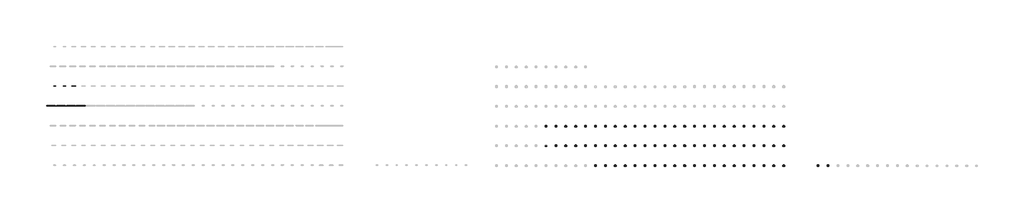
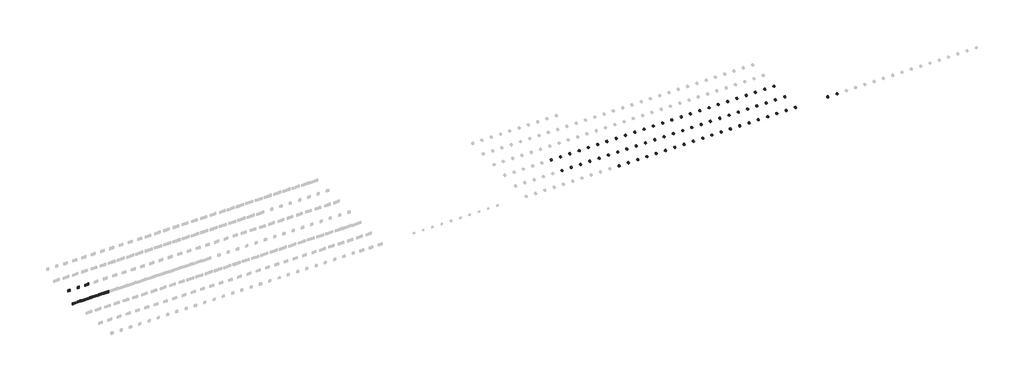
# One storey, part 2 of 18: 78 proxies, 72 cable carrier fittings.
"""IFC4 building model written with IfcOpenShell, lengths in millimetres."""

from ifc_helpers import new_model, si_unit, origin, place, context, project, spatial, transform, mapped, element, save
from components import electrical_fixtures_f4518cee, electrical_fixtures_237118b2, electrical_fixtures_96edac8a, electrical_fixtures_1861e07e, electrical_fixtures_887a49c7, electrical_fixtures_2bdeffb2, electrical_fixtures_55b0cb72, electrical_fixtures_6e0d8de4, cable_carrier_fitting_a64d4eba

model = new_model("IFC4")

# Units and contexts
model_context = context("Model", 3, world=origin())
ifc_project = project(units=[si_unit("LENGTHUNIT", "METRE", prefix="MILLI")], contexts=[model_context])

# Site, building, storey
site = spatial("IfcSite", under=ifc_project)
building = spatial("IfcBuilding", under=site)
storey = spatial("IfcBuildingStorey", under=building, Name="Этаж 01", Elevation=0.0)

# Proxies
placement = place(None, origin())
electrical_fixtures_shape = electrical_fixtures_f4518cee(model_context)
element("IfcBuildingElementProxy", 1, Name="IEK_Brite_Рамка : x5_РУ-5-Бр беж.-шамп.", ObjectType="IEK_Brite_Рамка : x5_РУ-5-Бр беж.-шамп.", at=placement, inside=storey, context=model_context, shape_type="MappedRepresentation", body=[
    mapped(electrical_fixtures_shape, transform((420.0, -15400.0, 0.0), x_axis=(1.0, 0.0, 0.0), y_axis=(0.0, 1.0, 0.0), z_axis=(0.0, 0.0, 1.0))),
])
element("IfcBuildingElementProxy", 2, Name="IEK_Brite_Рамка : x5_РУ-5-Бр бел.-бел.", ObjectType="IEK_Brite_Рамка : x5_РУ-5-Бр бел.-бел.", at=placement, inside=storey, context=model_context, shape_type="MappedRepresentation", body=[
    mapped(electrical_fixtures_shape, transform((820.0, -15400.0, 0.0), x_axis=(1.0, 0.0, 0.0), y_axis=(0.0, 1.0, 0.0), z_axis=(0.0, 0.0, 1.0))),
])
element("IfcBuildingElementProxy", 3, Name="IEK_Brite_Рамка : x5_РУ-5-Бр алюм.-алюм.", ObjectType="IEK_Brite_Рамка : x5_РУ-5-Бр алюм.-алюм.", at=placement, inside=storey, context=model_context, shape_type="MappedRepresentation", body=[
    mapped(electrical_fixtures_shape, transform((1220.0, -15400.0, 0.0), x_axis=(1.0, 0.0, 0.0), y_axis=(0.0, 1.0, 0.0), z_axis=(0.0, 0.0, 1.0))),
])
electrical_fixtures_2_shape = electrical_fixtures_237118b2(model_context)
element("IfcBuildingElementProxy", 4, Name="IEK_Brite_Рамка : x5_РУ-5-Бр бел. рифленый", ObjectType="IEK_Brite_Рамка : x5_РУ-5-Бр бел. рифленый", at=placement, inside=storey, context=model_context, shape_type="MappedRepresentation", body=[
    mapped(electrical_fixtures_2_shape, transform((1620.0, -15400.0, 0.0), x_axis=(1.0, 0.0, 0.0), y_axis=(0.0, 1.0, 0.0), z_axis=(0.0, 0.0, 1.0))),
])
electrical_fixtures_3_shape = electrical_fixtures_96edac8a(model_context)
element("IfcBuildingElementProxy", 5, Name="IEK_Brite_Рамка : x1_РУ-1-2-БрД стекло дым.", ObjectType="IEK_Brite_Рамка : x1_РУ-1-2-БрД стекло дым.", at=placement, inside=storey, context=model_context, shape_type="MappedRepresentation", body=[
    mapped(electrical_fixtures_3_shape, transform((420.0, -14600.0, 0.0), x_axis=(1.0, 0.0, 0.0), y_axis=(0.0, 1.0, 0.0), z_axis=(0.0, 0.0, 1.0))),
])
element("IfcBuildingElementProxy", 6, Name="IEK_Brite_Рамка : x1_РУ-1-2-БрТБ стекло бр.", ObjectType="IEK_Brite_Рамка : x1_РУ-1-2-БрТБ стекло бр.", at=placement, inside=storey, context=model_context, shape_type="MappedRepresentation", body=[
    mapped(electrical_fixtures_3_shape, transform((820.0, -14600.0, 0.0), x_axis=(1.0, 0.0, 0.0), y_axis=(0.0, 1.0, 0.0), z_axis=(0.0, 0.0, 1.0))),
])
electrical_fixtures_4_shape = electrical_fixtures_1861e07e(model_context)
element("IfcBuildingElementProxy", 7, Name="IEK_Brite_Рамка : x2_РУ-2-2-Бр стекло бел. матовый", ObjectType="IEK_Brite_Рамка : x2_РУ-2-2-Бр стекло бел. матовый", at=placement, inside=storey, context=model_context, shape_type="MappedRepresentation", body=[
    mapped(electrical_fixtures_4_shape, transform((1220.0, -14600.0, 0.0), x_axis=(1.0, 0.0, 0.0), y_axis=(0.0, 1.0, 0.0), z_axis=(0.0, 0.0, 1.0))),
])
electrical_fixtures_5_shape = electrical_fixtures_887a49c7(model_context)
element("IfcBuildingElementProxy", 8, Name="IEK_Brite_Механизм выключателя : ВП1_ВС10-1-3-БрА", ObjectType="IEK_Brite_Механизм выключателя : ВП1_ВС10-1-3-БрА", at=placement, inside=storey, context=model_context, shape_type="MappedRepresentation", body=[
    mapped(electrical_fixtures_5_shape, transform((22261.6818904, -17800.0, 0.0), x_axis=(1.0, 0.0, 0.0), y_axis=(0.0, 1.0, 0.0), z_axis=(0.0, 0.0, 1.0))),
])
element("IfcBuildingElementProxy", 9, Name="IEK_Brite_Механизм выключателя : ВП1_ВС10-1-3-БрБ", ObjectType="IEK_Brite_Механизм выключателя : ВП1_ВС10-1-3-БрБ", at=placement, inside=storey, context=model_context, shape_type="MappedRepresentation", body=[
    mapped(electrical_fixtures_5_shape, transform((22661.6818904, -17800.0, 0.0), x_axis=(1.0, 0.0, 0.0), y_axis=(0.0, 1.0, 0.0), z_axis=(0.0, 0.0, 1.0))),
])
element("IfcBuildingElementProxy", 10, Name="IEK_Brite_Механизм выключателя : ВП1_ВС10-1-3-БрГ", ObjectType="IEK_Brite_Механизм выключателя : ВП1_ВС10-1-3-БрГ", at=placement, inside=storey, context=model_context, shape_type="MappedRepresentation", body=[
    mapped(electrical_fixtures_5_shape, transform((23061.6818904, -17800.0, 0.0), x_axis=(1.0, 0.0, 0.0), y_axis=(0.0, 1.0, 0.0), z_axis=(0.0, 0.0, 1.0))),
])
element("IfcBuildingElementProxy", 11, Name="IEK_Brite_Механизм выключателя : ВП1_ВС10-1-3-БрЖ", ObjectType="IEK_Brite_Механизм выключателя : ВП1_ВС10-1-3-БрЖ", at=placement, inside=storey, context=model_context, shape_type="MappedRepresentation", body=[
    mapped(electrical_fixtures_5_shape, transform((23461.6818904, -17800.0, 0.0), x_axis=(1.0, 0.0, 0.0), y_axis=(0.0, 1.0, 0.0), z_axis=(0.0, 0.0, 1.0))),
])
element("IfcBuildingElementProxy", 12, Name="IEK_Brite_Механизм выключателя : ВП1_ВС10-1-3-БрКр", ObjectType="IEK_Brite_Механизм выключателя : ВП1_ВС10-1-3-БрКр", at=placement, inside=storey, context=model_context, shape_type="MappedRepresentation", body=[
    mapped(electrical_fixtures_5_shape, transform((23861.6818904, -17800.0, 0.0), x_axis=(1.0, 0.0, 0.0), y_axis=(0.0, 1.0, 0.0), z_axis=(0.0, 0.0, 1.0))),
])
element("IfcBuildingElementProxy", 13, Name="IEK_Brite_Механизм выключателя : ВП1_ВС10-1-3-БрМ", ObjectType="IEK_Brite_Механизм выключателя : ВП1_ВС10-1-3-БрМ", at=placement, inside=storey, context=model_context, shape_type="MappedRepresentation", body=[
    mapped(electrical_fixtures_5_shape, transform((24261.6818904, -17800.0, 0.0), x_axis=(1.0, 0.0, 0.0), y_axis=(0.0, 1.0, 0.0), z_axis=(0.0, 0.0, 1.0))),
])
element("IfcBuildingElementProxy", 14, Name="IEK_Brite_Механизм выключателя : ВП1_ВС10-1-3-БрС", ObjectType="IEK_Brite_Механизм выключателя : ВП1_ВС10-1-3-БрС", at=placement, inside=storey, context=model_context, shape_type="MappedRepresentation", body=[
    mapped(electrical_fixtures_5_shape, transform((24661.6818904, -17800.0, 0.0), x_axis=(1.0, 0.0, 0.0), y_axis=(0.0, 1.0, 0.0), z_axis=(0.0, 0.0, 1.0))),
])
element("IfcBuildingElementProxy", 15, Name="IEK_Brite_Механизм выключателя : ВП1_ВС10-1-3-БрТБ", ObjectType="IEK_Brite_Механизм выключателя : ВП1_ВС10-1-3-БрТБ", at=placement, inside=storey, context=model_context, shape_type="MappedRepresentation", body=[
    mapped(electrical_fixtures_5_shape, transform((25061.6818904, -17800.0, 0.0), x_axis=(1.0, 0.0, 0.0), y_axis=(0.0, 1.0, 0.0), z_axis=(0.0, 0.0, 1.0))),
])
element("IfcBuildingElementProxy", 16, Name="IEK_Brite_Механизм выключателя : ВП1_ВС10-1-3-БрЧ", ObjectType="IEK_Brite_Механизм выключателя : ВП1_ВС10-1-3-БрЧ", at=placement, inside=storey, context=model_context, shape_type="MappedRepresentation", body=[
    mapped(electrical_fixtures_5_shape, transform((25461.6818904, -17800.0, 0.0), x_axis=(1.0, 0.0, 0.0), y_axis=(0.0, 1.0, 0.0), z_axis=(0.0, 0.0, 1.0))),
])
element("IfcBuildingElementProxy", 17, Name="IEK_Brite_Механизм выключателя : ВП1_ВС10-1-3-БрШ", ObjectType="IEK_Brite_Механизм выключателя : ВП1_ВС10-1-3-БрШ", at=placement, inside=storey, context=model_context, shape_type="MappedRepresentation", body=[
    mapped(electrical_fixtures_5_shape, transform((25861.6818904, -17800.0, 0.0), x_axis=(1.0, 0.0, 0.0), y_axis=(0.0, 1.0, 0.0), z_axis=(0.0, 0.0, 1.0))),
])
element("IfcBuildingElementProxy", 18, Name="IEK_Brite_Механизм выключателя : ВПр1_ВС10-1-6-БрА", ObjectType="IEK_Brite_Механизм выключателя : ВПр1_ВС10-1-6-БрА", at=placement, inside=storey, context=model_context, shape_type="MappedRepresentation", body=[
    mapped(electrical_fixtures_5_shape, transform((26261.6818904, -17800.0, 0.0), x_axis=(1.0, 0.0, 0.0), y_axis=(0.0, 1.0, 0.0), z_axis=(0.0, 0.0, 1.0))),
])
element("IfcBuildingElementProxy", 19, Name="IEK_Brite_Механизм выключателя : ВПр1_ВС10-1-6-БрБ", ObjectType="IEK_Brite_Механизм выключателя : ВПр1_ВС10-1-6-БрБ", at=placement, inside=storey, context=model_context, shape_type="MappedRepresentation", body=[
    mapped(electrical_fixtures_5_shape, transform((26661.6818904, -17800.0, 0.0), x_axis=(1.0, 0.0, 0.0), y_axis=(0.0, 1.0, 0.0), z_axis=(0.0, 0.0, 1.0))),
])
element("IfcBuildingElementProxy", 20, Name="IEK_Brite_Механизм выключателя : ВПр1_ВС10-1-6-БрГ", ObjectType="IEK_Brite_Механизм выключателя : ВПр1_ВС10-1-6-БрГ", at=placement, inside=storey, context=model_context, shape_type="MappedRepresentation", body=[
    mapped(electrical_fixtures_5_shape, transform((27061.6818904, -17800.0, 0.0), x_axis=(1.0, 0.0, 0.0), y_axis=(0.0, 1.0, 0.0), z_axis=(0.0, 0.0, 1.0))),
])
element("IfcBuildingElementProxy", 21, Name="IEK_Brite_Механизм выключателя : ВПр1_ВС10-1-6-БрЖ", ObjectType="IEK_Brite_Механизм выключателя : ВПр1_ВС10-1-6-БрЖ", at=placement, inside=storey, context=model_context, shape_type="MappedRepresentation", body=[
    mapped(electrical_fixtures_5_shape, transform((27461.6818904, -17800.0, 0.0), x_axis=(1.0, 0.0, 0.0), y_axis=(0.0, 1.0, 0.0), z_axis=(0.0, 0.0, 1.0))),
])
element("IfcBuildingElementProxy", 22, Name="IEK_Brite_Механизм выключателя : ВПр1_ВС10-1-6-БрКр", ObjectType="IEK_Brite_Механизм выключателя : ВПр1_ВС10-1-6-БрКр", at=placement, inside=storey, context=model_context, shape_type="MappedRepresentation", body=[
    mapped(electrical_fixtures_5_shape, transform((27861.6818904, -17800.0, 0.0), x_axis=(1.0, 0.0, 0.0), y_axis=(0.0, 1.0, 0.0), z_axis=(0.0, 0.0, 1.0))),
])
element("IfcBuildingElementProxy", 23, Name="IEK_Brite_Механизм выключателя : ВПр1_ВС10-1-6-БрМ", ObjectType="IEK_Brite_Механизм выключателя : ВПр1_ВС10-1-6-БрМ", at=placement, inside=storey, context=model_context, shape_type="MappedRepresentation", body=[
    mapped(electrical_fixtures_5_shape, transform((28261.6818904, -17800.0, 0.0), x_axis=(1.0, 0.0, 0.0), y_axis=(0.0, 1.0, 0.0), z_axis=(0.0, 0.0, 1.0))),
])
element("IfcBuildingElementProxy", 24, Name="IEK_Brite_Механизм выключателя : ВПр1_ВС10-1-6-БрС", ObjectType="IEK_Brite_Механизм выключателя : ВПр1_ВС10-1-6-БрС", at=placement, inside=storey, context=model_context, shape_type="MappedRepresentation", body=[
    mapped(electrical_fixtures_5_shape, transform((28661.6818904, -17800.0, 0.0), x_axis=(1.0, 0.0, 0.0), y_axis=(0.0, 1.0, 0.0), z_axis=(0.0, 0.0, 1.0))),
])
element("IfcBuildingElementProxy", 25, Name="IEK_Brite_Механизм выключателя : ВПр1_ВС10-1-6-БрТБ", ObjectType="IEK_Brite_Механизм выключателя : ВПр1_ВС10-1-6-БрТБ", at=placement, inside=storey, context=model_context, shape_type="MappedRepresentation", body=[
    mapped(electrical_fixtures_5_shape, transform((29061.6818904, -17800.0, 0.0), x_axis=(1.0, 0.0, 0.0), y_axis=(0.0, 1.0, 0.0), z_axis=(0.0, 0.0, 1.0))),
])
element("IfcBuildingElementProxy", 26, Name="IEK_Brite_Механизм выключателя : ВПр1_ВС10-1-6-БрЧ", ObjectType="IEK_Brite_Механизм выключателя : ВПр1_ВС10-1-6-БрЧ", at=placement, inside=storey, context=model_context, shape_type="MappedRepresentation", body=[
    mapped(electrical_fixtures_5_shape, transform((29461.6818904, -17800.0, 0.0), x_axis=(1.0, 0.0, 0.0), y_axis=(0.0, 1.0, 0.0), z_axis=(0.0, 0.0, 1.0))),
])
element("IfcBuildingElementProxy", 27, Name="IEK_Brite_Механизм выключателя : ВПр1_ВС10-1-6-БрШ", ObjectType="IEK_Brite_Механизм выключателя : ВПр1_ВС10-1-6-БрШ", at=placement, inside=storey, context=model_context, shape_type="MappedRepresentation", body=[
    mapped(electrical_fixtures_5_shape, transform((29861.6818904, -17800.0, 0.0), x_axis=(1.0, 0.0, 0.0), y_axis=(0.0, 1.0, 0.0), z_axis=(0.0, 0.0, 1.0))),
])
electrical_fixtures_6_shape = electrical_fixtures_2bdeffb2(model_context)
element("IfcBuildingElementProxy", 28, Name="IEK_Brite_Механизм выключателя : ВПр1 И_ВС10-1-7-БрС", ObjectType="IEK_Brite_Механизм выключателя : ВПр1 И_ВС10-1-7-БрС", at=placement, inside=storey, context=model_context, shape_type="MappedRepresentation", body=[
    mapped(electrical_fixtures_6_shape, transform((20661.6818904, -17000.0, 0.0), x_axis=(1.0, 0.0, 0.0), y_axis=(0.0, 1.0, 0.0), z_axis=(0.0, 0.0, 1.0))),
])
element("IfcBuildingElementProxy", 29, Name="IEK_Brite_Механизм выключателя : ВПр1 И_ВС10-1-7-БрТБ", ObjectType="IEK_Brite_Механизм выключателя : ВПр1 И_ВС10-1-7-БрТБ", at=placement, inside=storey, context=model_context, shape_type="MappedRepresentation", body=[
    mapped(electrical_fixtures_6_shape, transform((21061.6818904, -17000.0, 0.0), x_axis=(1.0, 0.0, 0.0), y_axis=(0.0, 1.0, 0.0), z_axis=(0.0, 0.0, 1.0))),
])
element("IfcBuildingElementProxy", 30, Name="IEK_Brite_Механизм выключателя : ВПр1 И_ВС10-1-7-БрЧ", ObjectType="IEK_Brite_Механизм выключателя : ВПр1 И_ВС10-1-7-БрЧ", at=placement, inside=storey, context=model_context, shape_type="MappedRepresentation", body=[
    mapped(electrical_fixtures_6_shape, transform((21461.6818904, -17000.0, 0.0), x_axis=(1.0, 0.0, 0.0), y_axis=(0.0, 1.0, 0.0), z_axis=(0.0, 0.0, 1.0))),
])
element("IfcBuildingElementProxy", 31, Name="IEK_Brite_Механизм выключателя : ВПр1 И_ВС10-1-7-БрШ", ObjectType="IEK_Brite_Механизм выключателя : ВПр1 И_ВС10-1-7-БрШ", at=placement, inside=storey, context=model_context, shape_type="MappedRepresentation", body=[
    mapped(electrical_fixtures_6_shape, transform((21861.6818904, -17000.0, 0.0), x_axis=(1.0, 0.0, 0.0), y_axis=(0.0, 1.0, 0.0), z_axis=(0.0, 0.0, 1.0))),
])
element("IfcBuildingElementProxy", 32, Name="IEK_Brite_Механизм выключателя : В1 И_ВС10-1-1-БрА", ObjectType="IEK_Brite_Механизм выключателя : В1 И_ВС10-1-1-БрА", at=placement, inside=storey, context=model_context, shape_type="MappedRepresentation", body=[
    mapped(electrical_fixtures_6_shape, transform((22261.6818904, -17000.0, 0.0), x_axis=(1.0, 0.0, 0.0), y_axis=(0.0, 1.0, 0.0), z_axis=(0.0, 0.0, 1.0))),
])
element("IfcBuildingElementProxy", 33, Name="IEK_Brite_Механизм выключателя : В1 И_ВС10-1-1-БрБ", ObjectType="IEK_Brite_Механизм выключателя : В1 И_ВС10-1-1-БрБ", at=placement, inside=storey, context=model_context, shape_type="MappedRepresentation", body=[
    mapped(electrical_fixtures_6_shape, transform((22661.6818904, -17000.0, 0.0), x_axis=(1.0, 0.0, 0.0), y_axis=(0.0, 1.0, 0.0), z_axis=(0.0, 0.0, 1.0))),
])
element("IfcBuildingElementProxy", 34, Name="IEK_Brite_Механизм выключателя : В1 И_ВС10-1-1-БрГ", ObjectType="IEK_Brite_Механизм выключателя : В1 И_ВС10-1-1-БрГ", at=placement, inside=storey, context=model_context, shape_type="MappedRepresentation", body=[
    mapped(electrical_fixtures_6_shape, transform((23061.6818904, -17000.0, 0.0), x_axis=(1.0, 0.0, 0.0), y_axis=(0.0, 1.0, 0.0), z_axis=(0.0, 0.0, 1.0))),
])
element("IfcBuildingElementProxy", 35, Name="IEK_Brite_Механизм выключателя : В1 И_ВС10-1-1-БрЖ", ObjectType="IEK_Brite_Механизм выключателя : В1 И_ВС10-1-1-БрЖ", at=placement, inside=storey, context=model_context, shape_type="MappedRepresentation", body=[
    mapped(electrical_fixtures_6_shape, transform((23461.6818904, -17000.0, 0.0), x_axis=(1.0, 0.0, 0.0), y_axis=(0.0, 1.0, 0.0), z_axis=(0.0, 0.0, 1.0))),
])
element("IfcBuildingElementProxy", 36, Name="IEK_Brite_Механизм выключателя : В1 И_ВС10-1-1-БрКр", ObjectType="IEK_Brite_Механизм выключателя : В1 И_ВС10-1-1-БрКр", at=placement, inside=storey, context=model_context, shape_type="MappedRepresentation", body=[
    mapped(electrical_fixtures_6_shape, transform((23861.6818904, -17000.0, 0.0), x_axis=(1.0, 0.0, 0.0), y_axis=(0.0, 1.0, 0.0), z_axis=(0.0, 0.0, 1.0))),
])
element("IfcBuildingElementProxy", 37, Name="IEK_Brite_Механизм выключателя : В1 И_ВС10-1-1-БрМ", ObjectType="IEK_Brite_Механизм выключателя : В1 И_ВС10-1-1-БрМ", at=placement, inside=storey, context=model_context, shape_type="MappedRepresentation", body=[
    mapped(electrical_fixtures_6_shape, transform((24261.6818904, -17000.0, 0.0), x_axis=(1.0, 0.0, 0.0), y_axis=(0.0, 1.0, 0.0), z_axis=(0.0, 0.0, 1.0))),
])
element("IfcBuildingElementProxy", 38, Name="IEK_Brite_Механизм выключателя : В1 И_ВС10-1-1-БрС", ObjectType="IEK_Brite_Механизм выключателя : В1 И_ВС10-1-1-БрС", at=placement, inside=storey, context=model_context, shape_type="MappedRepresentation", body=[
    mapped(electrical_fixtures_6_shape, transform((24661.6818904, -17000.0, 0.0), x_axis=(1.0, 0.0, 0.0), y_axis=(0.0, 1.0, 0.0), z_axis=(0.0, 0.0, 1.0))),
])
element("IfcBuildingElementProxy", 39, Name="IEK_Brite_Механизм выключателя : В1 И_ВС10-1-1-БрТБ", ObjectType="IEK_Brite_Механизм выключателя : В1 И_ВС10-1-1-БрТБ", at=placement, inside=storey, context=model_context, shape_type="MappedRepresentation", body=[
    mapped(electrical_fixtures_6_shape, transform((25061.6818904, -17000.0, 0.0), x_axis=(1.0, 0.0, 0.0), y_axis=(0.0, 1.0, 0.0), z_axis=(0.0, 0.0, 1.0))),
])
element("IfcBuildingElementProxy", 40, Name="IEK_Brite_Механизм выключателя : В1 И_ВС10-1-1-БрЧ", ObjectType="IEK_Brite_Механизм выключателя : В1 И_ВС10-1-1-БрЧ", at=placement, inside=storey, context=model_context, shape_type="MappedRepresentation", body=[
    mapped(electrical_fixtures_6_shape, transform((25461.6818904, -17000.0, 0.0), x_axis=(1.0, 0.0, 0.0), y_axis=(0.0, 1.0, 0.0), z_axis=(0.0, 0.0, 1.0))),
])
element("IfcBuildingElementProxy", 41, Name="IEK_Brite_Механизм выключателя : В1 И_ВС10-1-1-БрШ", ObjectType="IEK_Brite_Механизм выключателя : В1 И_ВС10-1-1-БрШ", at=placement, inside=storey, context=model_context, shape_type="MappedRepresentation", body=[
    mapped(electrical_fixtures_6_shape, transform((25861.6818904, -17000.0, 0.0), x_axis=(1.0, 0.0, 0.0), y_axis=(0.0, 1.0, 0.0), z_axis=(0.0, 0.0, 1.0))),
])
element("IfcBuildingElementProxy", 42, Name="IEK_Brite_Механизм выключателя : В1 СВ_ВС10-1-4-БрА", ObjectType="IEK_Brite_Механизм выключателя : В1 СВ_ВС10-1-4-БрА", at=placement, inside=storey, context=model_context, shape_type="MappedRepresentation", body=[
    mapped(electrical_fixtures_5_shape, transform((26261.6818904, -17000.0, 0.0), x_axis=(1.0, 0.0, 0.0), y_axis=(0.0, 1.0, 0.0), z_axis=(0.0, 0.0, 1.0))),
])
element("IfcBuildingElementProxy", 43, Name="IEK_Brite_Механизм выключателя : В1 СВ_ВС10-1-4-БрБ", ObjectType="IEK_Brite_Механизм выключателя : В1 СВ_ВС10-1-4-БрБ", at=placement, inside=storey, context=model_context, shape_type="MappedRepresentation", body=[
    mapped(electrical_fixtures_5_shape, transform((26661.6818904, -17000.0, 0.0), x_axis=(1.0, 0.0, 0.0), y_axis=(0.0, 1.0, 0.0), z_axis=(0.0, 0.0, 1.0))),
])
element("IfcBuildingElementProxy", 44, Name="IEK_Brite_Механизм выключателя : В1 СВ_ВС10-1-4-БрГ", ObjectType="IEK_Brite_Механизм выключателя : В1 СВ_ВС10-1-4-БрГ", at=placement, inside=storey, context=model_context, shape_type="MappedRepresentation", body=[
    mapped(electrical_fixtures_5_shape, transform((27061.6818904, -17000.0, 0.0), x_axis=(1.0, 0.0, 0.0), y_axis=(0.0, 1.0, 0.0), z_axis=(0.0, 0.0, 1.0))),
])
element("IfcBuildingElementProxy", 45, Name="IEK_Brite_Механизм выключателя : В1 СВ_ВС10-1-4-БрЖ", ObjectType="IEK_Brite_Механизм выключателя : В1 СВ_ВС10-1-4-БрЖ", at=placement, inside=storey, context=model_context, shape_type="MappedRepresentation", body=[
    mapped(electrical_fixtures_5_shape, transform((27461.6818904, -17000.0, 0.0), x_axis=(1.0, 0.0, 0.0), y_axis=(0.0, 1.0, 0.0), z_axis=(0.0, 0.0, 1.0))),
])
element("IfcBuildingElementProxy", 46, Name="IEK_Brite_Механизм выключателя : В1 СВ_ВС10-1-4-БрКр", ObjectType="IEK_Brite_Механизм выключателя : В1 СВ_ВС10-1-4-БрКр", at=placement, inside=storey, context=model_context, shape_type="MappedRepresentation", body=[
    mapped(electrical_fixtures_5_shape, transform((27861.6818904, -17000.0, 0.0), x_axis=(1.0, 0.0, 0.0), y_axis=(0.0, 1.0, 0.0), z_axis=(0.0, 0.0, 1.0))),
])
element("IfcBuildingElementProxy", 47, Name="IEK_Brite_Механизм выключателя : В1 СВ_ВС10-1-4-БрМ", ObjectType="IEK_Brite_Механизм выключателя : В1 СВ_ВС10-1-4-БрМ", at=placement, inside=storey, context=model_context, shape_type="MappedRepresentation", body=[
    mapped(electrical_fixtures_5_shape, transform((28261.6818904, -17000.0, 0.0), x_axis=(1.0, 0.0, 0.0), y_axis=(0.0, 1.0, 0.0), z_axis=(0.0, 0.0, 1.0))),
])
element("IfcBuildingElementProxy", 48, Name="IEK_Brite_Механизм выключателя : В1 СВ_ВС10-1-4-БрС", ObjectType="IEK_Brite_Механизм выключателя : В1 СВ_ВС10-1-4-БрС", at=placement, inside=storey, context=model_context, shape_type="MappedRepresentation", body=[
    mapped(electrical_fixtures_5_shape, transform((28661.6818904, -17000.0, 0.0), x_axis=(1.0, 0.0, 0.0), y_axis=(0.0, 1.0, 0.0), z_axis=(0.0, 0.0, 1.0))),
])
element("IfcBuildingElementProxy", 49, Name="IEK_Brite_Механизм выключателя : В1 СВ_ВС10-1-4-БрТБ", ObjectType="IEK_Brite_Механизм выключателя : В1 СВ_ВС10-1-4-БрТБ", at=placement, inside=storey, context=model_context, shape_type="MappedRepresentation", body=[
    mapped(electrical_fixtures_5_shape, transform((29061.6818904, -17000.0, 0.0), x_axis=(1.0, 0.0, 0.0), y_axis=(0.0, 1.0, 0.0), z_axis=(0.0, 0.0, 1.0))),
])
element("IfcBuildingElementProxy", 50, Name="IEK_Brite_Механизм выключателя : В1 СВ_ВС10-1-4-БрЧ", ObjectType="IEK_Brite_Механизм выключателя : В1 СВ_ВС10-1-4-БрЧ", at=placement, inside=storey, context=model_context, shape_type="MappedRepresentation", body=[
    mapped(electrical_fixtures_5_shape, transform((29461.6818904, -17000.0, 0.0), x_axis=(1.0, 0.0, 0.0), y_axis=(0.0, 1.0, 0.0), z_axis=(0.0, 0.0, 1.0))),
])
element("IfcBuildingElementProxy", 51, Name="IEK_Brite_Механизм выключателя : В1 СВ_ВС10-1-4-БрШ", ObjectType="IEK_Brite_Механизм выключателя : В1 СВ_ВС10-1-4-БрШ", at=placement, inside=storey, context=model_context, shape_type="MappedRepresentation", body=[
    mapped(electrical_fixtures_5_shape, transform((29861.6818904, -17000.0, 0.0), x_axis=(1.0, 0.0, 0.0), y_axis=(0.0, 1.0, 0.0), z_axis=(0.0, 0.0, 1.0))),
])
electrical_fixtures_7_shape = electrical_fixtures_55b0cb72(model_context)
element("IfcBuildingElementProxy", 52, Name="IEK_Brite_Механизм выключателя : В2_ВС10-2-0-БрМ", ObjectType="IEK_Brite_Механизм выключателя : В2_ВС10-2-0-БрМ", at=placement, inside=storey, context=model_context, shape_type="MappedRepresentation", body=[
    mapped(electrical_fixtures_7_shape, transform((20261.6818904, -16200.0, 0.0), x_axis=(1.0, 0.0, 0.0), y_axis=(0.0, 1.0, 0.0), z_axis=(0.0, 0.0, 1.0))),
])
element("IfcBuildingElementProxy", 53, Name="IEK_Brite_Механизм выключателя : В2_ВС10-2-0-БрС", ObjectType="IEK_Brite_Механизм выключателя : В2_ВС10-2-0-БрС", at=placement, inside=storey, context=model_context, shape_type="MappedRepresentation", body=[
    mapped(electrical_fixtures_7_shape, transform((20661.6818904, -16200.0, 0.0), x_axis=(1.0, 0.0, 0.0), y_axis=(0.0, 1.0, 0.0), z_axis=(0.0, 0.0, 1.0))),
])
element("IfcBuildingElementProxy", 54, Name="IEK_Brite_Механизм выключателя : В2_ВС10-2-0-БрТБ", ObjectType="IEK_Brite_Механизм выключателя : В2_ВС10-2-0-БрТБ", at=placement, inside=storey, context=model_context, shape_type="MappedRepresentation", body=[
    mapped(electrical_fixtures_7_shape, transform((21061.6818904, -16200.0, 0.0), x_axis=(1.0, 0.0, 0.0), y_axis=(0.0, 1.0, 0.0), z_axis=(0.0, 0.0, 1.0))),
])
element("IfcBuildingElementProxy", 55, Name="IEK_Brite_Механизм выключателя : В2_ВС10-2-0-БрЧ", ObjectType="IEK_Brite_Механизм выключателя : В2_ВС10-2-0-БрЧ", at=placement, inside=storey, context=model_context, shape_type="MappedRepresentation", body=[
    mapped(electrical_fixtures_7_shape, transform((21461.6818904, -16200.0, 0.0), x_axis=(1.0, 0.0, 0.0), y_axis=(0.0, 1.0, 0.0), z_axis=(0.0, 0.0, 1.0))),
])
element("IfcBuildingElementProxy", 56, Name="IEK_Brite_Механизм выключателя : В2_ВС10-2-0-БрШ", ObjectType="IEK_Brite_Механизм выключателя : В2_ВС10-2-0-БрШ", at=placement, inside=storey, context=model_context, shape_type="MappedRepresentation", body=[
    mapped(electrical_fixtures_7_shape, transform((21861.6818904, -16200.0, 0.0), x_axis=(1.0, 0.0, 0.0), y_axis=(0.0, 1.0, 0.0), z_axis=(0.0, 0.0, 1.0))),
])
element("IfcBuildingElementProxy", 57, Name="IEK_Brite_Механизм выключателя : ВП2_ВС10-2-3-БрА", ObjectType="IEK_Brite_Механизм выключателя : ВП2_ВС10-2-3-БрА", at=placement, inside=storey, context=model_context, shape_type="MappedRepresentation", body=[
    mapped(electrical_fixtures_7_shape, transform((22261.6818904, -16200.0, 0.0), x_axis=(1.0, 0.0, 0.0), y_axis=(0.0, 1.0, 0.0), z_axis=(0.0, 0.0, 1.0))),
])
element("IfcBuildingElementProxy", 58, Name="IEK_Brite_Механизм выключателя : ВП2_ВС10-2-3-БрБ", ObjectType="IEK_Brite_Механизм выключателя : ВП2_ВС10-2-3-БрБ", at=placement, inside=storey, context=model_context, shape_type="MappedRepresentation", body=[
    mapped(electrical_fixtures_7_shape, transform((22661.6818904, -16200.0, 0.0), x_axis=(1.0, 0.0, 0.0), y_axis=(0.0, 1.0, 0.0), z_axis=(0.0, 0.0, 1.0))),
])
element("IfcBuildingElementProxy", 59, Name="IEK_Brite_Механизм выключателя : ВП2_ВС10-2-3-БрГ", ObjectType="IEK_Brite_Механизм выключателя : ВП2_ВС10-2-3-БрГ", at=placement, inside=storey, context=model_context, shape_type="MappedRepresentation", body=[
    mapped(electrical_fixtures_7_shape, transform((23061.6818904, -16200.0, 0.0), x_axis=(1.0, 0.0, 0.0), y_axis=(0.0, 1.0, 0.0), z_axis=(0.0, 0.0, 1.0))),
])
element("IfcBuildingElementProxy", 60, Name="IEK_Brite_Механизм выключателя : ВП2_ВС10-2-3-БрЖ", ObjectType="IEK_Brite_Механизм выключателя : ВП2_ВС10-2-3-БрЖ", at=placement, inside=storey, context=model_context, shape_type="MappedRepresentation", body=[
    mapped(electrical_fixtures_7_shape, transform((23461.6818904, -16200.0, 0.0), x_axis=(1.0, 0.0, 0.0), y_axis=(0.0, 1.0, 0.0), z_axis=(0.0, 0.0, 1.0))),
])
element("IfcBuildingElementProxy", 61, Name="IEK_Brite_Механизм выключателя : ВП2_ВС10-2-3-БрКр", ObjectType="IEK_Brite_Механизм выключателя : ВП2_ВС10-2-3-БрКр", at=placement, inside=storey, context=model_context, shape_type="MappedRepresentation", body=[
    mapped(electrical_fixtures_7_shape, transform((23861.6818904, -16200.0, 0.0), x_axis=(1.0, 0.0, 0.0), y_axis=(0.0, 1.0, 0.0), z_axis=(0.0, 0.0, 1.0))),
])
element("IfcBuildingElementProxy", 62, Name="IEK_Brite_Механизм выключателя : ВП2_ВС10-2-3-БрМ", ObjectType="IEK_Brite_Механизм выключателя : ВП2_ВС10-2-3-БрМ", at=placement, inside=storey, context=model_context, shape_type="MappedRepresentation", body=[
    mapped(electrical_fixtures_7_shape, transform((24261.6818904, -16200.0, 0.0), x_axis=(1.0, 0.0, 0.0), y_axis=(0.0, 1.0, 0.0), z_axis=(0.0, 0.0, 1.0))),
])
element("IfcBuildingElementProxy", 63, Name="IEK_Brite_Механизм выключателя : ВП2_ВС10-2-3-БрС", ObjectType="IEK_Brite_Механизм выключателя : ВП2_ВС10-2-3-БрС", at=placement, inside=storey, context=model_context, shape_type="MappedRepresentation", body=[
    mapped(electrical_fixtures_7_shape, transform((24661.6818904, -16200.0, 0.0), x_axis=(1.0, 0.0, 0.0), y_axis=(0.0, 1.0, 0.0), z_axis=(0.0, 0.0, 1.0))),
])
element("IfcBuildingElementProxy", 64, Name="IEK_Brite_Механизм выключателя : ВП2_ВС10-2-3-БрТБ", ObjectType="IEK_Brite_Механизм выключателя : ВП2_ВС10-2-3-БрТБ", at=placement, inside=storey, context=model_context, shape_type="MappedRepresentation", body=[
    mapped(electrical_fixtures_7_shape, transform((25061.6818904, -16200.0, 0.0), x_axis=(1.0, 0.0, 0.0), y_axis=(0.0, 1.0, 0.0), z_axis=(0.0, 0.0, 1.0))),
])
element("IfcBuildingElementProxy", 65, Name="IEK_Brite_Механизм выключателя : ВП2_ВС10-2-3-БрЧ", ObjectType="IEK_Brite_Механизм выключателя : ВП2_ВС10-2-3-БрЧ", at=placement, inside=storey, context=model_context, shape_type="MappedRepresentation", body=[
    mapped(electrical_fixtures_7_shape, transform((25461.6818904, -16200.0, 0.0), x_axis=(1.0, 0.0, 0.0), y_axis=(0.0, 1.0, 0.0), z_axis=(0.0, 0.0, 1.0))),
])
element("IfcBuildingElementProxy", 66, Name="IEK_Brite_Механизм выключателя : ВП2_ВС10-2-3-БрШ", ObjectType="IEK_Brite_Механизм выключателя : ВП2_ВС10-2-3-БрШ", at=placement, inside=storey, context=model_context, shape_type="MappedRepresentation", body=[
    mapped(electrical_fixtures_7_shape, transform((25861.6818904, -16200.0, 0.0), x_axis=(1.0, 0.0, 0.0), y_axis=(0.0, 1.0, 0.0), z_axis=(0.0, 0.0, 1.0))),
])
element("IfcBuildingElementProxy", 67, Name="IEK_Brite_Механизм выключателя : ВПр2_ВС10-2-6-БрА", ObjectType="IEK_Brite_Механизм выключателя : ВПр2_ВС10-2-6-БрА", at=placement, inside=storey, context=model_context, shape_type="MappedRepresentation", body=[
    mapped(electrical_fixtures_7_shape, transform((26261.6818904, -16200.0, 0.0), x_axis=(1.0, 0.0, 0.0), y_axis=(0.0, 1.0, 0.0), z_axis=(0.0, 0.0, 1.0))),
])
element("IfcBuildingElementProxy", 68, Name="IEK_Brite_Механизм выключателя : ВПр2_ВС10-2-6-БрБ", ObjectType="IEK_Brite_Механизм выключателя : ВПр2_ВС10-2-6-БрБ", at=placement, inside=storey, context=model_context, shape_type="MappedRepresentation", body=[
    mapped(electrical_fixtures_7_shape, transform((26661.6818904, -16200.0, 0.0), x_axis=(1.0, 0.0, 0.0), y_axis=(0.0, 1.0, 0.0), z_axis=(0.0, 0.0, 1.0))),
])
element("IfcBuildingElementProxy", 69, Name="IEK_Brite_Механизм выключателя : ВПр2_ВС10-2-6-БрГ", ObjectType="IEK_Brite_Механизм выключателя : ВПр2_ВС10-2-6-БрГ", at=placement, inside=storey, context=model_context, shape_type="MappedRepresentation", body=[
    mapped(electrical_fixtures_7_shape, transform((27061.6818904, -16200.0, 0.0), x_axis=(1.0, 0.0, 0.0), y_axis=(0.0, 1.0, 0.0), z_axis=(0.0, 0.0, 1.0))),
])
element("IfcBuildingElementProxy", 70, Name="IEK_Brite_Механизм выключателя : ВПр2_ВС10-2-6-БрЖ", ObjectType="IEK_Brite_Механизм выключателя : ВПр2_ВС10-2-6-БрЖ", at=placement, inside=storey, context=model_context, shape_type="MappedRepresentation", body=[
    mapped(electrical_fixtures_7_shape, transform((27461.6818904, -16200.0, 0.0), x_axis=(1.0, 0.0, 0.0), y_axis=(0.0, 1.0, 0.0), z_axis=(0.0, 0.0, 1.0))),
])
element("IfcBuildingElementProxy", 71, Name="IEK_Brite_Механизм выключателя : ВПр2_ВС10-2-6-БрКр", ObjectType="IEK_Brite_Механизм выключателя : ВПр2_ВС10-2-6-БрКр", at=placement, inside=storey, context=model_context, shape_type="MappedRepresentation", body=[
    mapped(electrical_fixtures_7_shape, transform((27861.6818904, -16200.0, 0.0), x_axis=(1.0, 0.0, 0.0), y_axis=(0.0, 1.0, 0.0), z_axis=(0.0, 0.0, 1.0))),
])
element("IfcBuildingElementProxy", 72, Name="IEK_Brite_Механизм выключателя : ВПр2_ВС10-2-6-БрМ", ObjectType="IEK_Brite_Механизм выключателя : ВПр2_ВС10-2-6-БрМ", at=placement, inside=storey, context=model_context, shape_type="MappedRepresentation", body=[
    mapped(electrical_fixtures_7_shape, transform((28261.6818904, -16200.0, 0.0), x_axis=(1.0, 0.0, 0.0), y_axis=(0.0, 1.0, 0.0), z_axis=(0.0, 0.0, 1.0))),
])
element("IfcBuildingElementProxy", 73, Name="IEK_Brite_Механизм выключателя : ВПр2_ВС10-2-6-БрС", ObjectType="IEK_Brite_Механизм выключателя : ВПр2_ВС10-2-6-БрС", at=placement, inside=storey, context=model_context, shape_type="MappedRepresentation", body=[
    mapped(electrical_fixtures_7_shape, transform((28661.6818904, -16200.0, 0.0), x_axis=(1.0, 0.0, 0.0), y_axis=(0.0, 1.0, 0.0), z_axis=(0.0, 0.0, 1.0))),
])
element("IfcBuildingElementProxy", 74, Name="IEK_Brite_Механизм выключателя : ВПр2_ВС10-2-6-БрТБ", ObjectType="IEK_Brite_Механизм выключателя : ВПр2_ВС10-2-6-БрТБ", at=placement, inside=storey, context=model_context, shape_type="MappedRepresentation", body=[
    mapped(electrical_fixtures_7_shape, transform((29061.6818904, -16200.0, 0.0), x_axis=(1.0, 0.0, 0.0), y_axis=(0.0, 1.0, 0.0), z_axis=(0.0, 0.0, 1.0))),
])
element("IfcBuildingElementProxy", 75, Name="IEK_Brite_Механизм выключателя : ВПр2_ВС10-2-6-БрЧ", ObjectType="IEK_Brite_Механизм выключателя : ВПр2_ВС10-2-6-БрЧ", at=placement, inside=storey, context=model_context, shape_type="MappedRepresentation", body=[
    mapped(electrical_fixtures_7_shape, transform((29461.6818904, -16200.0, 0.0), x_axis=(1.0, 0.0, 0.0), y_axis=(0.0, 1.0, 0.0), z_axis=(0.0, 0.0, 1.0))),
])
element("IfcBuildingElementProxy", 76, Name="IEK_Brite_Механизм выключателя : ВПр2_ВС10-2-6-БрШ", ObjectType="IEK_Brite_Механизм выключателя : ВПр2_ВС10-2-6-БрШ", at=placement, inside=storey, context=model_context, shape_type="MappedRepresentation", body=[
    mapped(electrical_fixtures_7_shape, transform((29861.6818904, -16200.0, 0.0), x_axis=(1.0, 0.0, 0.0), y_axis=(0.0, 1.0, 0.0), z_axis=(0.0, 0.0, 1.0))),
])
electrical_fixtures_8_shape = electrical_fixtures_6e0d8de4(model_context)
element("IfcBuildingElementProxy", 77, Name="IEK_Brite_Механизм подсветки, вывод кабеля : ВК_МВ10-БрА", ObjectType="IEK_Brite_Механизм подсветки, вывод кабеля : ВК_МВ10-БрА", at=placement, inside=storey, context=model_context, shape_type="MappedRepresentation", body=[
    mapped(electrical_fixtures_8_shape, transform((31251.7869327, -17805.0, 0.0), x_axis=(1.0, 0.0, 0.0), y_axis=(0.0, 1.0, 0.0), z_axis=(0.0, 0.0, 1.0))),
])
element("IfcBuildingElementProxy", 78, Name="IEK_Brite_Механизм подсветки, вывод кабеля : ВК_МВ10-БрБ", ObjectType="IEK_Brite_Механизм подсветки, вывод кабеля : ВК_МВ10-БрБ", at=placement, inside=storey, context=model_context, shape_type="MappedRepresentation", body=[
    mapped(electrical_fixtures_8_shape, transform((31651.7869327, -17805.0, 0.0), x_axis=(1.0, 0.0, 0.0), y_axis=(0.0, 1.0, 0.0), z_axis=(0.0, 0.0, 1.0))),
])

# Cable carrier fittings
cable_carrier_fitting_shape = cable_carrier_fitting_a64d4eba(model_context)
element("IfcCableCarrierFitting", 79, ObjectType="IEK_Коробка монтажная : стены_полые", at=placement, inside=storey, context=model_context, shape_type="MappedRepresentation", body=[
    mapped(cable_carrier_fitting_shape, transform((22261.6818904, -17800.0, 0.0), x_axis=(1.0, 0.0, 0.0), y_axis=(0.0, 1.0, 0.0), z_axis=(0.0, 0.0, 1.0))),
])
element("IfcCableCarrierFitting", 80, ObjectType="IEK_Коробка монтажная : стены_полые", at=placement, inside=storey, context=model_context, shape_type="MappedRepresentation", body=[
    mapped(cable_carrier_fitting_shape, transform((22661.6818904, -17800.0, 0.0), x_axis=(1.0, 0.0, 0.0), y_axis=(0.0, 1.0, 0.0), z_axis=(0.0, 0.0, 1.0))),
])
element("IfcCableCarrierFitting", 81, ObjectType="IEK_Коробка монтажная : стены_полые", at=placement, inside=storey, context=model_context, shape_type="MappedRepresentation", body=[
    mapped(cable_carrier_fitting_shape, transform((23061.6818904, -17800.0, 0.0), x_axis=(1.0, 0.0, 0.0), y_axis=(0.0, 1.0, 0.0), z_axis=(0.0, 0.0, 1.0))),
])
element("IfcCableCarrierFitting", 82, ObjectType="IEK_Коробка монтажная : стены_полые", at=placement, inside=storey, context=model_context, shape_type="MappedRepresentation", body=[
    mapped(cable_carrier_fitting_shape, transform((23461.6818904, -17800.0, 0.0), x_axis=(1.0, 0.0, 0.0), y_axis=(0.0, 1.0, 0.0), z_axis=(0.0, 0.0, 1.0))),
])
element("IfcCableCarrierFitting", 83, ObjectType="IEK_Коробка монтажная : стены_полые", at=placement, inside=storey, context=model_context, shape_type="MappedRepresentation", body=[
    mapped(cable_carrier_fitting_shape, transform((23861.6818904, -17800.0, 0.0), x_axis=(1.0, 0.0, 0.0), y_axis=(0.0, 1.0, 0.0), z_axis=(0.0, 0.0, 1.0))),
])
element("IfcCableCarrierFitting", 84, ObjectType="IEK_Коробка монтажная : стены_полые", at=placement, inside=storey, context=model_context, shape_type="MappedRepresentation", body=[
    mapped(cable_carrier_fitting_shape, transform((24261.6818904, -17800.0, 0.0), x_axis=(1.0, 0.0, 0.0), y_axis=(0.0, 1.0, 0.0), z_axis=(0.0, 0.0, 1.0))),
])
element("IfcCableCarrierFitting", 85, ObjectType="IEK_Коробка монтажная : стены_полые", at=placement, inside=storey, context=model_context, shape_type="MappedRepresentation", body=[
    mapped(cable_carrier_fitting_shape, transform((24661.6818904, -17800.0, 0.0), x_axis=(1.0, 0.0, 0.0), y_axis=(0.0, 1.0, 0.0), z_axis=(0.0, 0.0, 1.0))),
])
element("IfcCableCarrierFitting", 86, ObjectType="IEK_Коробка монтажная : стены_полые", at=placement, inside=storey, context=model_context, shape_type="MappedRepresentation", body=[
    mapped(cable_carrier_fitting_shape, transform((25061.6818904, -17800.0, 0.0), x_axis=(1.0, 0.0, 0.0), y_axis=(0.0, 1.0, 0.0), z_axis=(0.0, 0.0, 1.0))),
])
element("IfcCableCarrierFitting", 87, ObjectType="IEK_Коробка монтажная : стены_полые", at=placement, inside=storey, context=model_context, shape_type="MappedRepresentation", body=[
    mapped(cable_carrier_fitting_shape, transform((25461.6818904, -17800.0, 0.0), x_axis=(1.0, 0.0, 0.0), y_axis=(0.0, 1.0, 0.0), z_axis=(0.0, 0.0, 1.0))),
])
element("IfcCableCarrierFitting", 88, ObjectType="IEK_Коробка монтажная : стены_полые", at=placement, inside=storey, context=model_context, shape_type="MappedRepresentation", body=[
    mapped(cable_carrier_fitting_shape, transform((25861.6818904, -17800.0, 0.0), x_axis=(1.0, 0.0, 0.0), y_axis=(0.0, 1.0, 0.0), z_axis=(0.0, 0.0, 1.0))),
])
element("IfcCableCarrierFitting", 89, ObjectType="IEK_Коробка монтажная : стены_полые", at=placement, inside=storey, context=model_context, shape_type="MappedRepresentation", body=[
    mapped(cable_carrier_fitting_shape, transform((26261.6818904, -17800.0, 0.0), x_axis=(1.0, 0.0, 0.0), y_axis=(0.0, 1.0, 0.0), z_axis=(0.0, 0.0, 1.0))),
])
element("IfcCableCarrierFitting", 90, ObjectType="IEK_Коробка монтажная : стены_полые", at=placement, inside=storey, context=model_context, shape_type="MappedRepresentation", body=[
    mapped(cable_carrier_fitting_shape, transform((26661.6818904, -17800.0, 0.0), x_axis=(1.0, 0.0, 0.0), y_axis=(0.0, 1.0, 0.0), z_axis=(0.0, 0.0, 1.0))),
])
element("IfcCableCarrierFitting", 91, ObjectType="IEK_Коробка монтажная : стены_полые", at=placement, inside=storey, context=model_context, shape_type="MappedRepresentation", body=[
    mapped(cable_carrier_fitting_shape, transform((27061.6818904, -17800.0, 0.0), x_axis=(1.0, 0.0, 0.0), y_axis=(0.0, 1.0, 0.0), z_axis=(0.0, 0.0, 1.0))),
])
element("IfcCableCarrierFitting", 92, ObjectType="IEK_Коробка монтажная : стены_полые", at=placement, inside=storey, context=model_context, shape_type="MappedRepresentation", body=[
    mapped(cable_carrier_fitting_shape, transform((27461.6818904, -17800.0, 0.0), x_axis=(1.0, 0.0, 0.0), y_axis=(0.0, 1.0, 0.0), z_axis=(0.0, 0.0, 1.0))),
])
element("IfcCableCarrierFitting", 93, ObjectType="IEK_Коробка монтажная : стены_полые", at=placement, inside=storey, context=model_context, shape_type="MappedRepresentation", body=[
    mapped(cable_carrier_fitting_shape, transform((27861.6818904, -17800.0, 0.0), x_axis=(1.0, 0.0, 0.0), y_axis=(0.0, 1.0, 0.0), z_axis=(0.0, 0.0, 1.0))),
])
element("IfcCableCarrierFitting", 94, ObjectType="IEK_Коробка монтажная : стены_полые", at=placement, inside=storey, context=model_context, shape_type="MappedRepresentation", body=[
    mapped(cable_carrier_fitting_shape, transform((28261.6818904, -17800.0, 0.0), x_axis=(1.0, 0.0, 0.0), y_axis=(0.0, 1.0, 0.0), z_axis=(0.0, 0.0, 1.0))),
])
element("IfcCableCarrierFitting", 95, ObjectType="IEK_Коробка монтажная : стены_полые", at=placement, inside=storey, context=model_context, shape_type="MappedRepresentation", body=[
    mapped(cable_carrier_fitting_shape, transform((28661.6818904, -17800.0, 0.0), x_axis=(1.0, 0.0, 0.0), y_axis=(0.0, 1.0, 0.0), z_axis=(0.0, 0.0, 1.0))),
])
element("IfcCableCarrierFitting", 96, ObjectType="IEK_Коробка монтажная : стены_полые", at=placement, inside=storey, context=model_context, shape_type="MappedRepresentation", body=[
    mapped(cable_carrier_fitting_shape, transform((29061.6818904, -17800.0, 0.0), x_axis=(1.0, 0.0, 0.0), y_axis=(0.0, 1.0, 0.0), z_axis=(0.0, 0.0, 1.0))),
])
element("IfcCableCarrierFitting", 97, ObjectType="IEK_Коробка монтажная : стены_полые", at=placement, inside=storey, context=model_context, shape_type="MappedRepresentation", body=[
    mapped(cable_carrier_fitting_shape, transform((29461.6818904, -17800.0, 0.0), x_axis=(1.0, 0.0, 0.0), y_axis=(0.0, 1.0, 0.0), z_axis=(0.0, 0.0, 1.0))),
])
element("IfcCableCarrierFitting", 98, ObjectType="IEK_Коробка монтажная : стены_полые", at=placement, inside=storey, context=model_context, shape_type="MappedRepresentation", body=[
    mapped(cable_carrier_fitting_shape, transform((29861.6818904, -17800.0, 0.0), x_axis=(1.0, 0.0, 0.0), y_axis=(0.0, 1.0, 0.0), z_axis=(0.0, 0.0, 1.0))),
])
element("IfcCableCarrierFitting", 99, ObjectType="IEK_Коробка монтажная : стены_полые", at=placement, inside=storey, context=model_context, shape_type="MappedRepresentation", body=[
    mapped(cable_carrier_fitting_shape, transform((20261.6818904, -17000.0, 0.0), x_axis=(1.0, 0.0, 0.0), y_axis=(0.0, 1.0, 0.0), z_axis=(0.0, 0.0, 1.0))),
])
element("IfcCableCarrierFitting", 100, ObjectType="IEK_Коробка монтажная : стены_полые", at=placement, inside=storey, context=model_context, shape_type="MappedRepresentation", body=[
    mapped(cable_carrier_fitting_shape, transform((20661.6818904, -17000.0, 0.0), x_axis=(1.0, 0.0, 0.0), y_axis=(0.0, 1.0, 0.0), z_axis=(0.0, 0.0, 1.0))),
])
element("IfcCableCarrierFitting", 101, ObjectType="IEK_Коробка монтажная : стены_полые", at=placement, inside=storey, context=model_context, shape_type="MappedRepresentation", body=[
    mapped(cable_carrier_fitting_shape, transform((21061.6818904, -17000.0, 0.0), x_axis=(1.0, 0.0, 0.0), y_axis=(0.0, 1.0, 0.0), z_axis=(0.0, 0.0, 1.0))),
])
element("IfcCableCarrierFitting", 102, ObjectType="IEK_Коробка монтажная : стены_полые", at=placement, inside=storey, context=model_context, shape_type="MappedRepresentation", body=[
    mapped(cable_carrier_fitting_shape, transform((21461.6818904, -17000.0, 0.0), x_axis=(1.0, 0.0, 0.0), y_axis=(0.0, 1.0, 0.0), z_axis=(0.0, 0.0, 1.0))),
])
element("IfcCableCarrierFitting", 103, ObjectType="IEK_Коробка монтажная : стены_полые", at=placement, inside=storey, context=model_context, shape_type="MappedRepresentation", body=[
    mapped(cable_carrier_fitting_shape, transform((21861.6818904, -17000.0, 0.0), x_axis=(1.0, 0.0, 0.0), y_axis=(0.0, 1.0, 0.0), z_axis=(0.0, 0.0, 1.0))),
])
element("IfcCableCarrierFitting", 104, ObjectType="IEK_Коробка монтажная : стены_полые", at=placement, inside=storey, context=model_context, shape_type="MappedRepresentation", body=[
    mapped(cable_carrier_fitting_shape, transform((22261.6818904, -17000.0, 0.0), x_axis=(1.0, 0.0, 0.0), y_axis=(0.0, 1.0, 0.0), z_axis=(0.0, 0.0, 1.0))),
])
element("IfcCableCarrierFitting", 105, ObjectType="IEK_Коробка монтажная : стены_полые", at=placement, inside=storey, context=model_context, shape_type="MappedRepresentation", body=[
    mapped(cable_carrier_fitting_shape, transform((22661.6818904, -17000.0, 0.0), x_axis=(1.0, 0.0, 0.0), y_axis=(0.0, 1.0, 0.0), z_axis=(0.0, 0.0, 1.0))),
])
element("IfcCableCarrierFitting", 106, ObjectType="IEK_Коробка монтажная : стены_полые", at=placement, inside=storey, context=model_context, shape_type="MappedRepresentation", body=[
    mapped(cable_carrier_fitting_shape, transform((23061.6818904, -17000.0, 0.0), x_axis=(1.0, 0.0, 0.0), y_axis=(0.0, 1.0, 0.0), z_axis=(0.0, 0.0, 1.0))),
])
element("IfcCableCarrierFitting", 107, ObjectType="IEK_Коробка монтажная : стены_полые", at=placement, inside=storey, context=model_context, shape_type="MappedRepresentation", body=[
    mapped(cable_carrier_fitting_shape, transform((23461.6818904, -17000.0, 0.0), x_axis=(1.0, 0.0, 0.0), y_axis=(0.0, 1.0, 0.0), z_axis=(0.0, 0.0, 1.0))),
])
element("IfcCableCarrierFitting", 108, ObjectType="IEK_Коробка монтажная : стены_полые", at=placement, inside=storey, context=model_context, shape_type="MappedRepresentation", body=[
    mapped(cable_carrier_fitting_shape, transform((23861.6818904, -17000.0, 0.0), x_axis=(1.0, 0.0, 0.0), y_axis=(0.0, 1.0, 0.0), z_axis=(0.0, 0.0, 1.0))),
])
element("IfcCableCarrierFitting", 109, ObjectType="IEK_Коробка монтажная : стены_полые", at=placement, inside=storey, context=model_context, shape_type="MappedRepresentation", body=[
    mapped(cable_carrier_fitting_shape, transform((24261.6818904, -17000.0, 0.0), x_axis=(1.0, 0.0, 0.0), y_axis=(0.0, 1.0, 0.0), z_axis=(0.0, 0.0, 1.0))),
])
element("IfcCableCarrierFitting", 110, ObjectType="IEK_Коробка монтажная : стены_полые", at=placement, inside=storey, context=model_context, shape_type="MappedRepresentation", body=[
    mapped(cable_carrier_fitting_shape, transform((24661.6818904, -17000.0, 0.0), x_axis=(1.0, 0.0, 0.0), y_axis=(0.0, 1.0, 0.0), z_axis=(0.0, 0.0, 1.0))),
])
element("IfcCableCarrierFitting", 111, ObjectType="IEK_Коробка монтажная : стены_полые", at=placement, inside=storey, context=model_context, shape_type="MappedRepresentation", body=[
    mapped(cable_carrier_fitting_shape, transform((25061.6818904, -17000.0, 0.0), x_axis=(1.0, 0.0, 0.0), y_axis=(0.0, 1.0, 0.0), z_axis=(0.0, 0.0, 1.0))),
])
element("IfcCableCarrierFitting", 112, ObjectType="IEK_Коробка монтажная : стены_полые", at=placement, inside=storey, context=model_context, shape_type="MappedRepresentation", body=[
    mapped(cable_carrier_fitting_shape, transform((25461.6818904, -17000.0, 0.0), x_axis=(1.0, 0.0, 0.0), y_axis=(0.0, 1.0, 0.0), z_axis=(0.0, 0.0, 1.0))),
])
element("IfcCableCarrierFitting", 113, ObjectType="IEK_Коробка монтажная : стены_полые", at=placement, inside=storey, context=model_context, shape_type="MappedRepresentation", body=[
    mapped(cable_carrier_fitting_shape, transform((25861.6818904, -17000.0, 0.0), x_axis=(1.0, 0.0, 0.0), y_axis=(0.0, 1.0, 0.0), z_axis=(0.0, 0.0, 1.0))),
])
element("IfcCableCarrierFitting", 114, ObjectType="IEK_Коробка монтажная : стены_полые", at=placement, inside=storey, context=model_context, shape_type="MappedRepresentation", body=[
    mapped(cable_carrier_fitting_shape, transform((26261.6818904, -17000.0, 0.0), x_axis=(1.0, 0.0, 0.0), y_axis=(0.0, 1.0, 0.0), z_axis=(0.0, 0.0, 1.0))),
])
element("IfcCableCarrierFitting", 115, ObjectType="IEK_Коробка монтажная : стены_полые", at=placement, inside=storey, context=model_context, shape_type="MappedRepresentation", body=[
    mapped(cable_carrier_fitting_shape, transform((26661.6818904, -17000.0, 0.0), x_axis=(1.0, 0.0, 0.0), y_axis=(0.0, 1.0, 0.0), z_axis=(0.0, 0.0, 1.0))),
])
element("IfcCableCarrierFitting", 116, ObjectType="IEK_Коробка монтажная : стены_полые", at=placement, inside=storey, context=model_context, shape_type="MappedRepresentation", body=[
    mapped(cable_carrier_fitting_shape, transform((27061.6818904, -17000.0, 0.0), x_axis=(1.0, 0.0, 0.0), y_axis=(0.0, 1.0, 0.0), z_axis=(0.0, 0.0, 1.0))),
])
element("IfcCableCarrierFitting", 117, ObjectType="IEK_Коробка монтажная : стены_полые", at=placement, inside=storey, context=model_context, shape_type="MappedRepresentation", body=[
    mapped(cable_carrier_fitting_shape, transform((27461.6818904, -17000.0, 0.0), x_axis=(1.0, 0.0, 0.0), y_axis=(0.0, 1.0, 0.0), z_axis=(0.0, 0.0, 1.0))),
])
element("IfcCableCarrierFitting", 118, ObjectType="IEK_Коробка монтажная : стены_полые", at=placement, inside=storey, context=model_context, shape_type="MappedRepresentation", body=[
    mapped(cable_carrier_fitting_shape, transform((27861.6818904, -17000.0, 0.0), x_axis=(1.0, 0.0, 0.0), y_axis=(0.0, 1.0, 0.0), z_axis=(0.0, 0.0, 1.0))),
])
element("IfcCableCarrierFitting", 119, ObjectType="IEK_Коробка монтажная : стены_полые", at=placement, inside=storey, context=model_context, shape_type="MappedRepresentation", body=[
    mapped(cable_carrier_fitting_shape, transform((28261.6818904, -17000.0, 0.0), x_axis=(1.0, 0.0, 0.0), y_axis=(0.0, 1.0, 0.0), z_axis=(0.0, 0.0, 1.0))),
])
element("IfcCableCarrierFitting", 120, ObjectType="IEK_Коробка монтажная : стены_полые", at=placement, inside=storey, context=model_context, shape_type="MappedRepresentation", body=[
    mapped(cable_carrier_fitting_shape, transform((28661.6818904, -17000.0, 0.0), x_axis=(1.0, 0.0, 0.0), y_axis=(0.0, 1.0, 0.0), z_axis=(0.0, 0.0, 1.0))),
])
element("IfcCableCarrierFitting", 121, ObjectType="IEK_Коробка монтажная : стены_полые", at=placement, inside=storey, context=model_context, shape_type="MappedRepresentation", body=[
    mapped(cable_carrier_fitting_shape, transform((29061.6818904, -17000.0, 0.0), x_axis=(1.0, 0.0, 0.0), y_axis=(0.0, 1.0, 0.0), z_axis=(0.0, 0.0, 1.0))),
])
element("IfcCableCarrierFitting", 122, ObjectType="IEK_Коробка монтажная : стены_полые", at=placement, inside=storey, context=model_context, shape_type="MappedRepresentation", body=[
    mapped(cable_carrier_fitting_shape, transform((29461.6818904, -17000.0, 0.0), x_axis=(1.0, 0.0, 0.0), y_axis=(0.0, 1.0, 0.0), z_axis=(0.0, 0.0, 1.0))),
])
element("IfcCableCarrierFitting", 123, ObjectType="IEK_Коробка монтажная : стены_полые", at=placement, inside=storey, context=model_context, shape_type="MappedRepresentation", body=[
    mapped(cable_carrier_fitting_shape, transform((29861.6818904, -17000.0, 0.0), x_axis=(1.0, 0.0, 0.0), y_axis=(0.0, 1.0, 0.0), z_axis=(0.0, 0.0, 1.0))),
])
element("IfcCableCarrierFitting", 124, ObjectType="IEK_Коробка монтажная : стены_полые", at=placement, inside=storey, context=model_context, shape_type="MappedRepresentation", body=[
    mapped(cable_carrier_fitting_shape, transform((20261.6818904, -16200.0, 0.0), x_axis=(1.0, 0.0, 0.0), y_axis=(0.0, 1.0, 0.0), z_axis=(0.0, 0.0, 1.0))),
])
element("IfcCableCarrierFitting", 125, ObjectType="IEK_Коробка монтажная : стены_полые", at=placement, inside=storey, context=model_context, shape_type="MappedRepresentation", body=[
    mapped(cable_carrier_fitting_shape, transform((20661.6818904, -16200.0, 0.0), x_axis=(1.0, 0.0, 0.0), y_axis=(0.0, 1.0, 0.0), z_axis=(0.0, 0.0, 1.0))),
])
element("IfcCableCarrierFitting", 126, ObjectType="IEK_Коробка монтажная : стены_полые", at=placement, inside=storey, context=model_context, shape_type="MappedRepresentation", body=[
    mapped(cable_carrier_fitting_shape, transform((21061.6818904, -16200.0, 0.0), x_axis=(1.0, 0.0, 0.0), y_axis=(0.0, 1.0, 0.0), z_axis=(0.0, 0.0, 1.0))),
])
element("IfcCableCarrierFitting", 127, ObjectType="IEK_Коробка монтажная : стены_полые", at=placement, inside=storey, context=model_context, shape_type="MappedRepresentation", body=[
    mapped(cable_carrier_fitting_shape, transform((21461.6818904, -16200.0, 0.0), x_axis=(1.0, 0.0, 0.0), y_axis=(0.0, 1.0, 0.0), z_axis=(0.0, 0.0, 1.0))),
])
element("IfcCableCarrierFitting", 128, ObjectType="IEK_Коробка монтажная : стены_полые", at=placement, inside=storey, context=model_context, shape_type="MappedRepresentation", body=[
    mapped(cable_carrier_fitting_shape, transform((21861.6818904, -16200.0, 0.0), x_axis=(1.0, 0.0, 0.0), y_axis=(0.0, 1.0, 0.0), z_axis=(0.0, 0.0, 1.0))),
])
element("IfcCableCarrierFitting", 129, ObjectType="IEK_Коробка монтажная : стены_полые", at=placement, inside=storey, context=model_context, shape_type="MappedRepresentation", body=[
    mapped(cable_carrier_fitting_shape, transform((22261.6818904, -16200.0, 0.0), x_axis=(1.0, 0.0, 0.0), y_axis=(0.0, 1.0, 0.0), z_axis=(0.0, 0.0, 1.0))),
])
element("IfcCableCarrierFitting", 130, ObjectType="IEK_Коробка монтажная : стены_полые", at=placement, inside=storey, context=model_context, shape_type="MappedRepresentation", body=[
    mapped(cable_carrier_fitting_shape, transform((22661.6818904, -16200.0, 0.0), x_axis=(1.0, 0.0, 0.0), y_axis=(0.0, 1.0, 0.0), z_axis=(0.0, 0.0, 1.0))),
])
element("IfcCableCarrierFitting", 131, ObjectType="IEK_Коробка монтажная : стены_полые", at=placement, inside=storey, context=model_context, shape_type="MappedRepresentation", body=[
    mapped(cable_carrier_fitting_shape, transform((23061.6818904, -16200.0, 0.0), x_axis=(1.0, 0.0, 0.0), y_axis=(0.0, 1.0, 0.0), z_axis=(0.0, 0.0, 1.0))),
])
element("IfcCableCarrierFitting", 132, ObjectType="IEK_Коробка монтажная : стены_полые", at=placement, inside=storey, context=model_context, shape_type="MappedRepresentation", body=[
    mapped(cable_carrier_fitting_shape, transform((23461.6818904, -16200.0, 0.0), x_axis=(1.0, 0.0, 0.0), y_axis=(0.0, 1.0, 0.0), z_axis=(0.0, 0.0, 1.0))),
])
element("IfcCableCarrierFitting", 133, ObjectType="IEK_Коробка монтажная : стены_полые", at=placement, inside=storey, context=model_context, shape_type="MappedRepresentation", body=[
    mapped(cable_carrier_fitting_shape, transform((23861.6818904, -16200.0, 0.0), x_axis=(1.0, 0.0, 0.0), y_axis=(0.0, 1.0, 0.0), z_axis=(0.0, 0.0, 1.0))),
])
element("IfcCableCarrierFitting", 134, ObjectType="IEK_Коробка монтажная : стены_полые", at=placement, inside=storey, context=model_context, shape_type="MappedRepresentation", body=[
    mapped(cable_carrier_fitting_shape, transform((24261.6818904, -16200.0, 0.0), x_axis=(1.0, 0.0, 0.0), y_axis=(0.0, 1.0, 0.0), z_axis=(0.0, 0.0, 1.0))),
])
element("IfcCableCarrierFitting", 135, ObjectType="IEK_Коробка монтажная : стены_полые", at=placement, inside=storey, context=model_context, shape_type="MappedRepresentation", body=[
    mapped(cable_carrier_fitting_shape, transform((24661.6818904, -16200.0, 0.0), x_axis=(1.0, 0.0, 0.0), y_axis=(0.0, 1.0, 0.0), z_axis=(0.0, 0.0, 1.0))),
])
element("IfcCableCarrierFitting", 136, ObjectType="IEK_Коробка монтажная : стены_полые", at=placement, inside=storey, context=model_context, shape_type="MappedRepresentation", body=[
    mapped(cable_carrier_fitting_shape, transform((25061.6818904, -16200.0, 0.0), x_axis=(1.0, 0.0, 0.0), y_axis=(0.0, 1.0, 0.0), z_axis=(0.0, 0.0, 1.0))),
])
element("IfcCableCarrierFitting", 137, ObjectType="IEK_Коробка монтажная : стены_полые", at=placement, inside=storey, context=model_context, shape_type="MappedRepresentation", body=[
    mapped(cable_carrier_fitting_shape, transform((25461.6818904, -16200.0, 0.0), x_axis=(1.0, 0.0, 0.0), y_axis=(0.0, 1.0, 0.0), z_axis=(0.0, 0.0, 1.0))),
])
element("IfcCableCarrierFitting", 138, ObjectType="IEK_Коробка монтажная : стены_полые", at=placement, inside=storey, context=model_context, shape_type="MappedRepresentation", body=[
    mapped(cable_carrier_fitting_shape, transform((25861.6818904, -16200.0, 0.0), x_axis=(1.0, 0.0, 0.0), y_axis=(0.0, 1.0, 0.0), z_axis=(0.0, 0.0, 1.0))),
])
element("IfcCableCarrierFitting", 139, ObjectType="IEK_Коробка монтажная : стены_полые", at=placement, inside=storey, context=model_context, shape_type="MappedRepresentation", body=[
    mapped(cable_carrier_fitting_shape, transform((26261.6818904, -16200.0, 0.0), x_axis=(1.0, 0.0, 0.0), y_axis=(0.0, 1.0, 0.0), z_axis=(0.0, 0.0, 1.0))),
])
element("IfcCableCarrierFitting", 140, ObjectType="IEK_Коробка монтажная : стены_полые", at=placement, inside=storey, context=model_context, shape_type="MappedRepresentation", body=[
    mapped(cable_carrier_fitting_shape, transform((26661.6818904, -16200.0, 0.0), x_axis=(1.0, 0.0, 0.0), y_axis=(0.0, 1.0, 0.0), z_axis=(0.0, 0.0, 1.0))),
])
element("IfcCableCarrierFitting", 141, ObjectType="IEK_Коробка монтажная : стены_полые", at=placement, inside=storey, context=model_context, shape_type="MappedRepresentation", body=[
    mapped(cable_carrier_fitting_shape, transform((27061.6818904, -16200.0, 0.0), x_axis=(1.0, 0.0, 0.0), y_axis=(0.0, 1.0, 0.0), z_axis=(0.0, 0.0, 1.0))),
])
element("IfcCableCarrierFitting", 142, ObjectType="IEK_Коробка монтажная : стены_полые", at=placement, inside=storey, context=model_context, shape_type="MappedRepresentation", body=[
    mapped(cable_carrier_fitting_shape, transform((27461.6818904, -16200.0, 0.0), x_axis=(1.0, 0.0, 0.0), y_axis=(0.0, 1.0, 0.0), z_axis=(0.0, 0.0, 1.0))),
])
element("IfcCableCarrierFitting", 143, ObjectType="IEK_Коробка монтажная : стены_полые", at=placement, inside=storey, context=model_context, shape_type="MappedRepresentation", body=[
    mapped(cable_carrier_fitting_shape, transform((27861.6818904, -16200.0, 0.0), x_axis=(1.0, 0.0, 0.0), y_axis=(0.0, 1.0, 0.0), z_axis=(0.0, 0.0, 1.0))),
])
element("IfcCableCarrierFitting", 144, ObjectType="IEK_Коробка монтажная : стены_полые", at=placement, inside=storey, context=model_context, shape_type="MappedRepresentation", body=[
    mapped(cable_carrier_fitting_shape, transform((28261.6818904, -16200.0, 0.0), x_axis=(1.0, 0.0, 0.0), y_axis=(0.0, 1.0, 0.0), z_axis=(0.0, 0.0, 1.0))),
])
element("IfcCableCarrierFitting", 145, ObjectType="IEK_Коробка монтажная : стены_полые", at=placement, inside=storey, context=model_context, shape_type="MappedRepresentation", body=[
    mapped(cable_carrier_fitting_shape, transform((28661.6818904, -16200.0, 0.0), x_axis=(1.0, 0.0, 0.0), y_axis=(0.0, 1.0, 0.0), z_axis=(0.0, 0.0, 1.0))),
])
element("IfcCableCarrierFitting", 146, ObjectType="IEK_Коробка монтажная : стены_полые", at=placement, inside=storey, context=model_context, shape_type="MappedRepresentation", body=[
    mapped(cable_carrier_fitting_shape, transform((29061.6818904, -16200.0, 0.0), x_axis=(1.0, 0.0, 0.0), y_axis=(0.0, 1.0, 0.0), z_axis=(0.0, 0.0, 1.0))),
])
element("IfcCableCarrierFitting", 147, ObjectType="IEK_Коробка монтажная : стены_полые", at=placement, inside=storey, context=model_context, shape_type="MappedRepresentation", body=[
    mapped(cable_carrier_fitting_shape, transform((29461.6818904, -16200.0, 0.0), x_axis=(1.0, 0.0, 0.0), y_axis=(0.0, 1.0, 0.0), z_axis=(0.0, 0.0, 1.0))),
])
element("IfcCableCarrierFitting", 148, ObjectType="IEK_Коробка монтажная : стены_полые", at=placement, inside=storey, context=model_context, shape_type="MappedRepresentation", body=[
    mapped(cable_carrier_fitting_shape, transform((29861.6818904, -16200.0, 0.0), x_axis=(1.0, 0.0, 0.0), y_axis=(0.0, 1.0, 0.0), z_axis=(0.0, 0.0, 1.0))),
])
element("IfcCableCarrierFitting", 149, ObjectType="IEK_Коробка монтажная : стены_полые", at=placement, inside=storey, context=model_context, shape_type="MappedRepresentation", body=[
    mapped(cable_carrier_fitting_shape, transform((31251.7869327, -17805.0, 0.0), x_axis=(1.0, 0.0, 0.0), y_axis=(0.0, 1.0, 0.0), z_axis=(0.0, 0.0, 1.0))),
])
element("IfcCableCarrierFitting", 150, ObjectType="IEK_Коробка монтажная : стены_полые", at=placement, inside=storey, context=model_context, shape_type="MappedRepresentation", body=[
    mapped(cable_carrier_fitting_shape, transform((31651.7869327, -17805.0, 0.0), x_axis=(1.0, 0.0, 0.0), y_axis=(0.0, 1.0, 0.0), z_axis=(0.0, 0.0, 1.0))),
])

save(model, "model.ifc")
